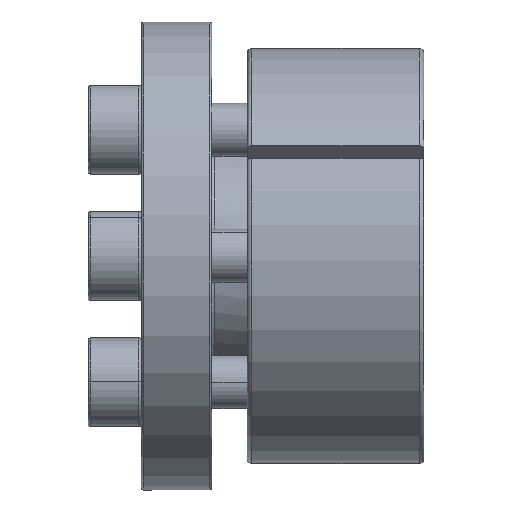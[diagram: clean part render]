
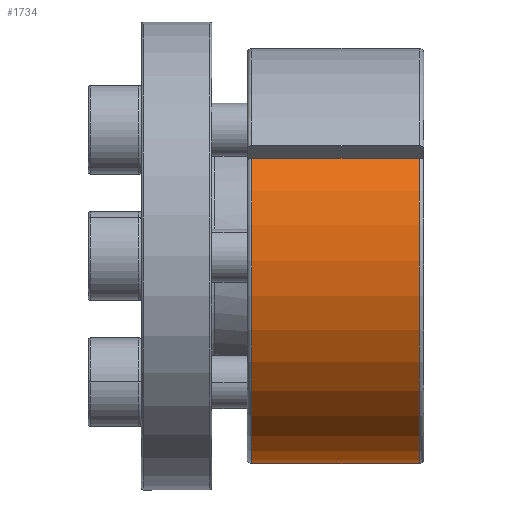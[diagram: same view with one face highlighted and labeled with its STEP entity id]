
A CAD part, top view. The second image highlights one B-rep face of the part: STEP entity #1734.
In plain terms, the highlighted cylindrical face has radius 23.5 mm (diameter 47 mm), a partial arc.
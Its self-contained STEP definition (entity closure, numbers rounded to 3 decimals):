
#655 = EDGE_LOOP ( 'NONE', ( #4051, #3939, #3966, #3961 ) ) ;
#1066 = CARTESIAN_POINT ( 'NONE',  ( -8.181, -1.229, 0. ) ) ;
#1067 = DIRECTION ( 'NONE',  ( 1., 0., 0. ) ) ;
#1068 = DIRECTION ( 'NONE',  ( 0., 1., 0. ) ) ;
#1538 = AXIS2_PLACEMENT_3D ( 'NONE', #1066, #1067, #1068 ) ;
#1565 = AXIS2_PLACEMENT_3D ( 'NONE', #4980, #4981, #4982 ) ;
#1734 = ADVANCED_FACE ( 'NONE', ( #6591 ), #6596, .T. ) ;
#2250 = CIRCLE ( 'NONE', #1538, 23.5 ) ;
#2319 = CIRCLE ( 'NONE', #1565, 23.5 ) ;
#2320 = LINE ( 'NONE', #4976, #2321 ) ;
#2321 = VECTOR ( 'NONE', #4970, 1000. ) ;
#2859 = EDGE_CURVE ( 'NONE', #4798, #4799, #2250, .T. ) ;
#2906 = EDGE_CURVE ( 'NONE', #4799, #4801, #2320, .T. ) ;
#2907 = EDGE_CURVE ( 'NONE', #4803, #4801, #2319, .T. ) ;
#2938 = CARTESIAN_POINT ( 'NONE',  ( 11.869, -1.229, 0. ) ) ;
#2974 = DIRECTION ( 'NONE',  ( 0., 1., 0. ) ) ;
#2981 = DIRECTION ( 'NONE',  ( 1., 0., 0. ) ) ;
#3868 = CARTESIAN_POINT ( 'NONE',  ( 11.869, 9.822, 20.74 ) ) ;
#3869 = DIRECTION ( 'NONE',  ( -1., 0., 0. ) ) ;
#3939 = ORIENTED_EDGE ( 'NONE', *, *, #2906, .T. ) ;
#3961 = ORIENTED_EDGE ( 'NONE', *, *, #7929, .T. ) ;
#3966 = ORIENTED_EDGE ( 'NONE', *, *, #2907, .F. ) ;
#4051 = ORIENTED_EDGE ( 'NONE', *, *, #2859, .T. ) ;
#4176 = CARTESIAN_POINT ( 'NONE',  ( -8.181, 9.822, 20.74 ) ) ;
#4177 = CARTESIAN_POINT ( 'NONE',  ( -8.181, -24.729, 0. ) ) ;
#4179 = CARTESIAN_POINT ( 'NONE',  ( 10.819, -24.729, 0. ) ) ;
#4181 = CARTESIAN_POINT ( 'NONE',  ( 10.819, 9.822, 20.74 ) ) ;
#4798 = VERTEX_POINT ( 'NONE', #4176 ) ;
#4799 = VERTEX_POINT ( 'NONE', #4177 ) ;
#4801 = VERTEX_POINT ( 'NONE', #4179 ) ;
#4803 = VERTEX_POINT ( 'NONE', #4181 ) ;
#4970 = DIRECTION ( 'NONE',  ( 1., 0., 0. ) ) ;
#4976 = CARTESIAN_POINT ( 'NONE',  ( 11.869, -24.729, 0. ) ) ;
#4980 = CARTESIAN_POINT ( 'NONE',  ( 10.819, -1.229, 0. ) ) ;
#4981 = DIRECTION ( 'NONE',  ( 1., 0., 0. ) ) ;
#4982 = DIRECTION ( 'NONE',  ( 0., 1., 0. ) ) ;
#6554 = AXIS2_PLACEMENT_3D ( 'NONE', #2938, #2981, #2974 ) ;
#6591 = FACE_OUTER_BOUND ( 'NONE', #655, .T. ) ;
#6596 = CYLINDRICAL_SURFACE ( 'NONE', #6554, 23.5 ) ;
#7185 = LINE ( 'NONE', #3868, #7187 ) ;
#7187 = VECTOR ( 'NONE', #3869, 1000. ) ;
#7929 = EDGE_CURVE ( 'NONE', #4803, #4798, #7185, .T. ) ;
